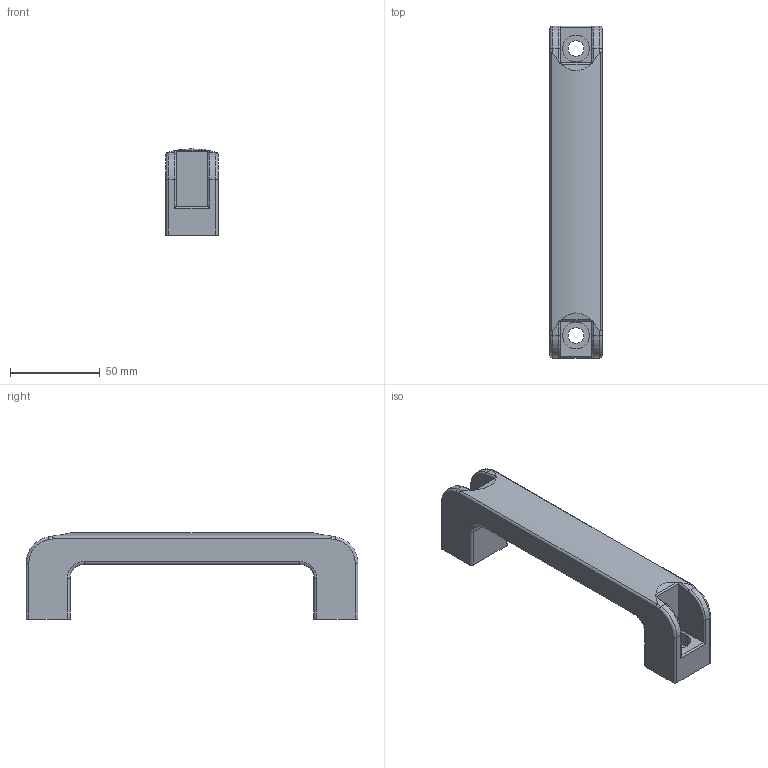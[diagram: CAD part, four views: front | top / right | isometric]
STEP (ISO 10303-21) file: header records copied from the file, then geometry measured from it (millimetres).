
FILE_DESCRIPTION(('CATIA V5 STEP Exchange'),'2;1');
FILE_NAME('X:\CODICI MOVEX\3D per clienti\Daryna Itsenko\04-10-2013\P38602_01.stp','2013-10-04T07:17:03+00:00',('none'),('none'),'CATIA Version 5 Release 21 SP 1 (IN-10)','CATIA V5 STEP AP203','none');
FILE_SCHEMA(('CONFIG_CONTROL_DESIGN'));
Length unit declared in the file: millimetre
Products named in the file (1): Part1
Bounding box: 29 x 185 x 48 mm (x, y, z)
Volume: 105858.5 mm3; surface area: 26116.2 mm2
Topology: 1 solids, 1 shells, 80 faces, 204 edges, 128 vertices
Faces by surface type: cylinder 43, plane 25, torus 12
Entity records: 2475 total; most frequent: CARTESIAN_POINT 638, ORIENTED_EDGE 408, DIRECTION 296, EDGE_CURVE 204, AXIS2_PLACEMENT_3D 138, VERTEX_POINT 128, VECTOR 94, LINE 94
